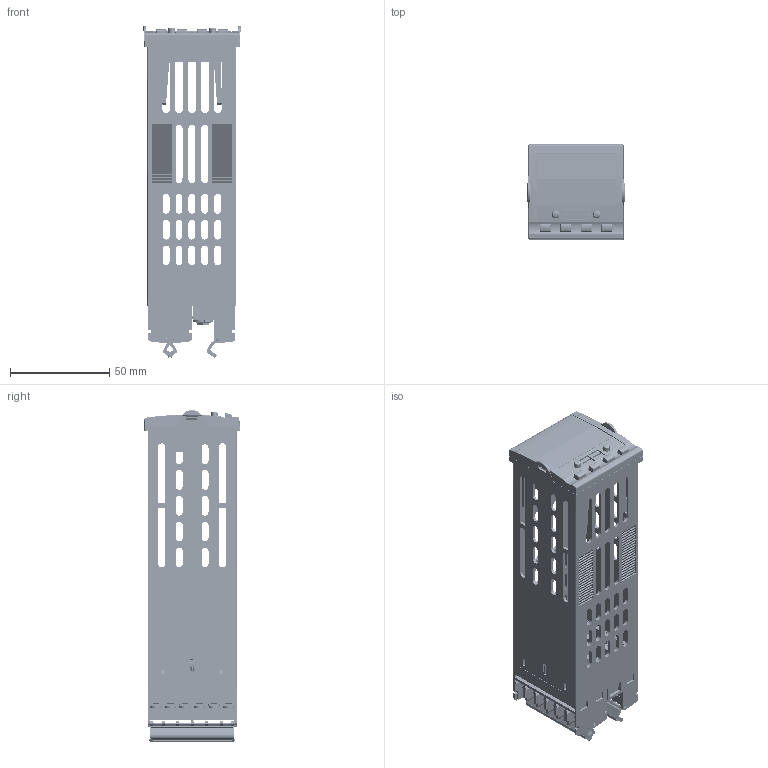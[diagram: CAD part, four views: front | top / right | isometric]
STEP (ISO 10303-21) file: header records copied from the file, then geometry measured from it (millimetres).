
FILE_DESCRIPTION((''),'2;1');
FILE_NAME('2416_IGESFILE2','2012-02-21T',('chrisloe'),(''),'PRO/ENGINEER BY PARAMETRIC TECHNOLOGY CORPORATION, 2010180','PRO/ENGINEER BY PARAMETRIC TECHNOLOGY CORPORATION, 2010180','');
FILE_SCHEMA(('CONFIG_CONTROL_DESIGN'));
Length unit declared in the file: millimetre
Products named in the file (1): 2416_IGESFILE2
Bounding box: 49 x 48.12 x 167.15 mm (x, y, z)
Volume: 52888.8 mm3; surface area: 99558.4 mm2
Topology: 4 solids, 55 shells, 8985 faces, 24268 edges, 15418 vertices
Faces by surface type: plane 6693, cylinder 1622, cone 320, torus 195, bspline 153, sphere 2
Entity records: 293674 total; most frequent: CARTESIAN_POINT 71531, ORIENTED_EDGE 48394, DIRECTION 42581, EDGE_CURVE 24246, VECTOR 18081, LINE 18081, VERTEX_POINT 15420, AXIS2_PLACEMENT_3D 12250
